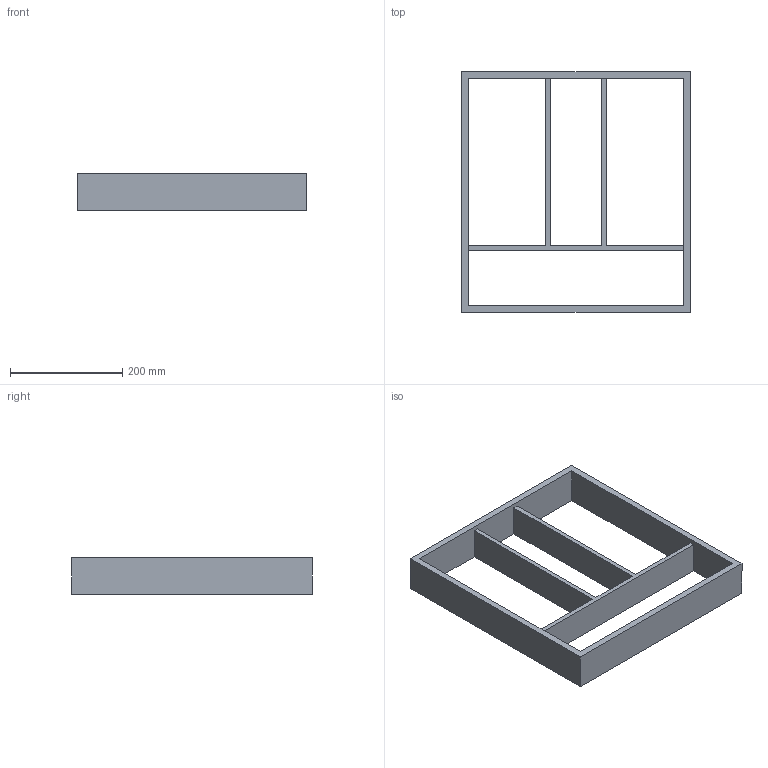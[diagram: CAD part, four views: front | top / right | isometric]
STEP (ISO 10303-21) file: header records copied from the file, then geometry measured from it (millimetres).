
FILE_DESCRIPTION (( 'STEP AP214' ), '1' );
FILE_NAME ('Vario Multi NL450_B500_16 mm_Buche.step', '2010-10-07T06:24:15', ( 'grass' ), ( '' ), 'SwSTEP 2.0', 'SolidWorks 2010', '' );
FILE_SCHEMA (( 'AUTOMOTIVE_DESIGN' ));
Length unit declared in the file: millimetre
Products named in the file (1): Vario Multi NL450_B500_16 mm_Buche
Bounding box: 408 x 429 x 65 mm (x, y, z)
Volume: 1715889.6 mm3; surface area: 375276 mm2
Topology: 1 solids, 1 shells, 19 faces, 60 edges, 40 vertices
Faces by surface type: plane 19
Entity records: 704 total; most frequent: ORIENTED_EDGE 120, CARTESIAN_POINT 120, DIRECTION 100, EDGE_CURVE 60, VECTOR 60, LINE 60, VERTEX_POINT 40, EDGE_LOOP 24
